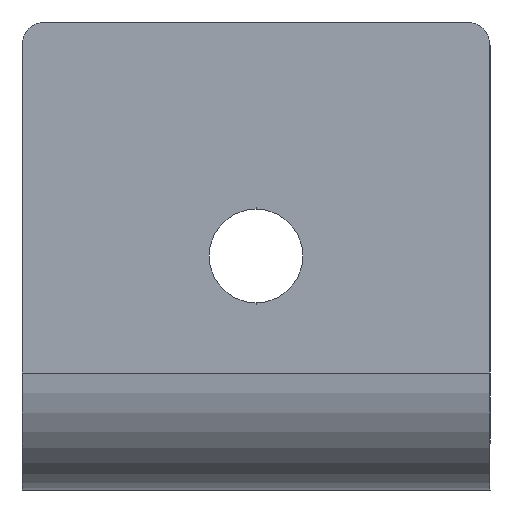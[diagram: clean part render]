
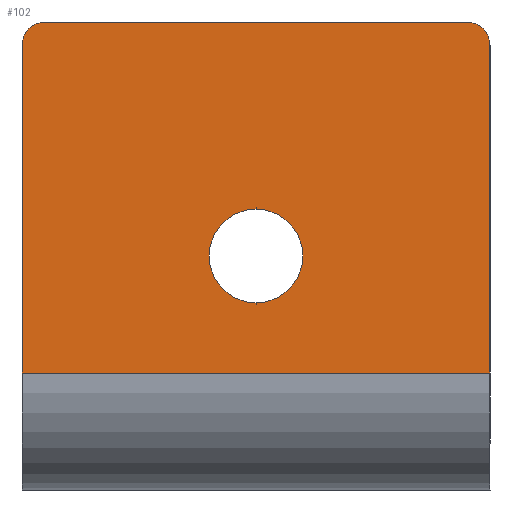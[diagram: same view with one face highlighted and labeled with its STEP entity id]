
A CAD part, left-side view. The second image highlights one B-rep face of the part: STEP entity #102.
In plain terms, the highlighted planar face has unit normal (-1, 0, 0).
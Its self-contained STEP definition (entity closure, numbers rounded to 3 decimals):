
#4 = VERTEX_POINT ( 'NONE', #628 ) ;
#12 = VERTEX_POINT ( 'NONE', #680 ) ;
#13 = CARTESIAN_POINT ( 'NONE',  ( -20., -18., 38. ) ) ;
#36 = EDGE_LOOP ( 'NONE', ( #458, #129, #142, #649, #314, #125 ) ) ;
#37 = EDGE_CURVE ( 'NONE', #662, #134, #544, .T. ) ;
#84 = DIRECTION ( 'NONE',  ( 0., 1., 0. ) ) ;
#85 = EDGE_CURVE ( 'NONE', #422, #186, #684, .T. ) ;
#94 = PLANE ( 'NONE',  #601 ) ;
#102 = ADVANCED_FACE ( 'NONE', ( #392, #210 ), #94, .T. ) ;
#112 = DIRECTION ( 'NONE',  ( -1., 0., 0. ) ) ;
#125 = ORIENTED_EDGE ( 'NONE', *, *, #498, .T. ) ;
#129 = ORIENTED_EDGE ( 'NONE', *, *, #465, .F. ) ;
#134 = VERTEX_POINT ( 'NONE', #284 ) ;
#142 = ORIENTED_EDGE ( 'NONE', *, *, #198, .F. ) ;
#147 = EDGE_CURVE ( 'NONE', #545, #12, #331, .T. ) ;
#186 = VERTEX_POINT ( 'NONE', #187 ) ;
#187 = CARTESIAN_POINT ( 'NONE',  ( -20., 20., 38. ) ) ;
#189 = VECTOR ( 'NONE', #391, 1000. ) ;
#198 = EDGE_CURVE ( 'NONE', #4, #305, #698, .T. ) ;
#201 = DIRECTION ( 'NONE',  ( 0., 0., 1. ) ) ;
#210 = FACE_OUTER_BOUND ( 'NONE', #36, .T. ) ;
#227 = DIRECTION ( 'NONE',  ( 0., 0., -1. ) ) ;
#232 = DIRECTION ( 'NONE',  ( 0., 0., -1. ) ) ;
#275 = VECTOR ( 'NONE', #232, 1000. ) ;
#284 = CARTESIAN_POINT ( 'NONE',  ( -20., -18., 40. ) ) ;
#291 = ORIENTED_EDGE ( 'NONE', *, *, #147, .T. ) ;
#296 = AXIS2_PLACEMENT_3D ( 'NONE', #13, #112, #227 ) ;
#302 = DIRECTION ( 'NONE',  ( 1., 0., 0. ) ) ;
#305 = VERTEX_POINT ( 'NONE', #506 ) ;
#306 = EDGE_CURVE ( 'NONE', #12, #545, #616, .T. ) ;
#314 = ORIENTED_EDGE ( 'NONE', *, *, #37, .T. ) ;
#326 = DIRECTION ( 'NONE',  ( 1., 0., 0. ) ) ;
#331 = CIRCLE ( 'NONE', #719, 4. ) ;
#391 = DIRECTION ( 'NONE',  ( 0., 0., 1. ) ) ;
#392 = FACE_BOUND ( 'NONE', #652, .T. ) ;
#396 = EDGE_CURVE ( 'NONE', #662, #4, #584, .T. ) ;
#399 = CARTESIAN_POINT ( 'NONE',  ( -20., 18., 40. ) ) ;
#409 = AXIS2_PLACEMENT_3D ( 'NONE', #440, #326, #629 ) ;
#416 = DIRECTION ( 'NONE',  ( 0., 0., -1. ) ) ;
#417 = CARTESIAN_POINT ( 'NONE',  ( -20., 0., 40. ) ) ;
#422 = VERTEX_POINT ( 'NONE', #399 ) ;
#429 = DIRECTION ( 'NONE',  ( -1., 0., 0. ) ) ;
#440 = CARTESIAN_POINT ( 'NONE',  ( -20., 0., 20. ) ) ;
#442 = AXIS2_PLACEMENT_3D ( 'NONE', #548, #429, #201 ) ;
#448 = DIRECTION ( 'NONE',  ( 0., 0., 1. ) ) ;
#458 = ORIENTED_EDGE ( 'NONE', *, *, #85, .T. ) ;
#465 = EDGE_CURVE ( 'NONE', #305, #186, #565, .T. ) ;
#474 = CARTESIAN_POINT ( 'NONE',  ( -20., 0., 16. ) ) ;
#487 = CARTESIAN_POINT ( 'NONE',  ( -20., -20., 38. ) ) ;
#498 = EDGE_CURVE ( 'NONE', #134, #422, #624, .T. ) ;
#506 = CARTESIAN_POINT ( 'NONE',  ( -20., 20., 10. ) ) ;
#510 = DIRECTION ( 'NONE',  ( -1., 0., 0. ) ) ;
#530 = DIRECTION ( 'NONE',  ( 0., 1., 0. ) ) ;
#544 = CIRCLE ( 'NONE', #296, 2. ) ;
#545 = VERTEX_POINT ( 'NONE', #474 ) ;
#548 = CARTESIAN_POINT ( 'NONE',  ( -20., 18., 38. ) ) ;
#565 = LINE ( 'NONE', #627, #189 ) ;
#570 = CARTESIAN_POINT ( 'NONE',  ( -20., -20., 10. ) ) ;
#584 = LINE ( 'NONE', #637, #275 ) ;
#589 = CARTESIAN_POINT ( 'NONE',  ( -20., 0., 10. ) ) ;
#591 = CARTESIAN_POINT ( 'NONE',  ( -20., 0., 20. ) ) ;
#601 = AXIS2_PLACEMENT_3D ( 'NONE', #570, #510, #448 ) ;
#616 = CIRCLE ( 'NONE', #409, 4. ) ;
#624 = LINE ( 'NONE', #417, #701 ) ;
#627 = CARTESIAN_POINT ( 'NONE',  ( -20., 20., 19. ) ) ;
#628 = CARTESIAN_POINT ( 'NONE',  ( -20., -20., 10. ) ) ;
#629 = DIRECTION ( 'NONE',  ( 0., 0., -1. ) ) ;
#637 = CARTESIAN_POINT ( 'NONE',  ( -20., -20., 19. ) ) ;
#649 = ORIENTED_EDGE ( 'NONE', *, *, #396, .F. ) ;
#652 = EDGE_LOOP ( 'NONE', ( #291, #724 ) ) ;
#662 = VERTEX_POINT ( 'NONE', #487 ) ;
#680 = CARTESIAN_POINT ( 'NONE',  ( -20., 0., 24. ) ) ;
#684 = CIRCLE ( 'NONE', #442, 2. ) ;
#698 = LINE ( 'NONE', #589, #714 ) ;
#701 = VECTOR ( 'NONE', #84, 1000. ) ;
#714 = VECTOR ( 'NONE', #530, 1000. ) ;
#719 = AXIS2_PLACEMENT_3D ( 'NONE', #591, #302, #416 ) ;
#724 = ORIENTED_EDGE ( 'NONE', *, *, #306, .T. ) ;
